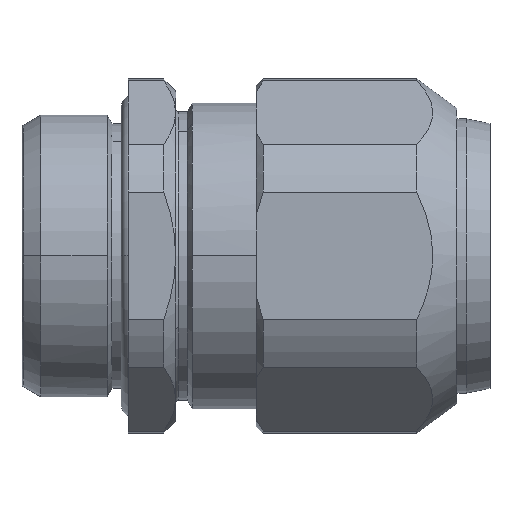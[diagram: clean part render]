
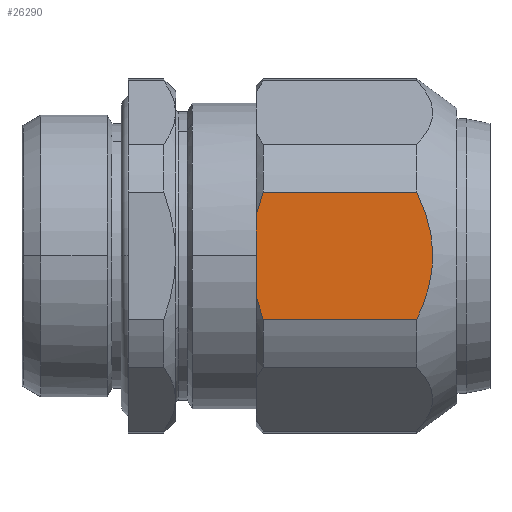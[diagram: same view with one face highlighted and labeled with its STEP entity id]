
A CAD part, top view. The second image highlights one B-rep face of the part: STEP entity #26290.
In plain terms, the highlighted planar face has unit normal (0, 0, 1) as drawn and (0, 1, 0) by its records, which use the part's own axes.
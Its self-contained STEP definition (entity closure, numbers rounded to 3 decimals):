
#2610=CARTESIAN_POINT('',(5.7,0.,
0.));
#2620=DIRECTION('',(1.,0.,0.));
#2630=DIRECTION('',(0.,0.,-1.));
#2640=AXIS2_PLACEMENT_3D('',#2610,#2620,#2630);
#2650=CONICAL_SURFACE('',#2640,7.5,0.785);
#21340=CARTESIAN_POINT('',(12.2,0.,
0.));
#21350=DIRECTION('',(-1.,0.,0.));
#21360=DIRECTION('',(0.,0.,1.));
#21370=AXIS2_PLACEMENT_3D('',#21340,#21350,#21360);
#21380=CONICAL_SURFACE('',#21370,7.5,0.634);
#21740=CARTESIAN_POINT('',(12.2,7.,2.693));
#21750=VERTEX_POINT('656201-1634192109-14cb19c6d37b-0 995597',#21740);
#21780=CARTESIAN_POINT('',(13.9,7.,-4.041));
#21790=DIRECTION('',(0.,1.,0.));
#21800=DIRECTION('',(0.,0.,-1.));
#21810=AXIS2_PLACEMENT_3D('',#21780,#21790,#21800);
#21820=PLANE('',#21810);
#21830=CARTESIAN_POINT('',(12.2,7.,-2.693));
#21840=CARTESIAN_POINT('',(12.405,7.,
-2.273));
#21850=CARTESIAN_POINT('',(12.575,7.,
-1.839));
#21860=CARTESIAN_POINT('',(12.694,7.,
-1.389));
#21870=CARTESIAN_POINT('',(12.754,7.,
-1.163));
#21880=CARTESIAN_POINT('',(12.801,7.,
-0.933));
#21890=CARTESIAN_POINT('',(12.832,7.,
-0.701));
#21900=CARTESIAN_POINT('',(12.864,7.,
-0.468));
#21910=CARTESIAN_POINT('',(12.88,7.,-0.234));
#21920=CARTESIAN_POINT('',(12.88,7.,0.));
#21930=CARTESIAN_POINT('',(12.88,7.,0.234));
#21940=CARTESIAN_POINT('',(12.864,7.,
0.466));
#21950=CARTESIAN_POINT('',(12.833,7.,
0.697));
#21960=CARTESIAN_POINT('',(12.802,7.,
0.927));
#21970=CARTESIAN_POINT('',(12.756,7.,
1.156));
#21980=CARTESIAN_POINT('',(12.696,7.,
1.383));
#21990=CARTESIAN_POINT('',(12.636,7.,
1.609));
#22000=CARTESIAN_POINT('',(12.564,7.,
1.832));
#22010=CARTESIAN_POINT('',(12.48,7.,
2.051));
#22020=CARTESIAN_POINT('',(12.396,7.,
2.27));
#22030=CARTESIAN_POINT('',(12.302,7.,
2.484));
#22040=CARTESIAN_POINT('',(12.2,7.,
2.693));
#22050=B_SPLINE_CURVE_WITH_KNOTS('',3,(#21830,#21840,#21850,#21860,
#21870,#21880,#21890,#21900,#21910,#21920,#21930,#21940,#21950,#21960,
#21970,#21980,#21990,#22000,#22010,#22020,#22030,#22040),.UNSPECIFIED.,
.F.,.F.,(4,3,3,3,3,3,3,4),(0.,1.397,2.099,
2.802,3.5,4.2,4.903,
5.603),.UNSPECIFIED.);
#22060=SURFACE_CURVE('',#22050,(#21380,#21820),.CURVE_3D.);
#22070=CARTESIAN_POINT('',(12.2,7.,-2.693));
#22080=VERTEX_POINT('656201-1634192109-14cb19c6d37b-0 995578',#22070);
#22090=EDGE_CURVE('656201-1634192109-14cb19c6d37b-0 995598',#22080,
#21750,#22060,.T.);
#25660=CARTESIAN_POINT('',(5.7,7.,2.693));
#25670=CARTESIAN_POINT('',(5.67,7.,2.61));
#25680=CARTESIAN_POINT('',(5.642,7.,
2.527));
#25690=CARTESIAN_POINT('',(5.614,7.,
2.444));
#25700=CARTESIAN_POINT('',(5.587,7.,
2.36));
#25710=CARTESIAN_POINT('',(5.56,7.,2.277));
#25720=CARTESIAN_POINT('',(5.535,7.,2.193));
#25730=CARTESIAN_POINT('',(5.51,7.,2.109));
#25740=CARTESIAN_POINT('',(5.486,7.,2.024));
#25750=CARTESIAN_POINT('',(5.464,7.,1.94));
#25760=CARTESIAN_POINT('',(5.441,7.,1.855));
#25770=CARTESIAN_POINT('',(5.42,7.,1.77));
#25780=CARTESIAN_POINT('',(5.4,7.,1.685));
#25790=B_SPLINE_CURVE_WITH_KNOTS('',3,(#25660,#25670,#25680,#25690,
#25700,#25710,#25720,#25730,#25740,#25750,#25760,#25770,#25780),
.UNSPECIFIED.,.F.,.F.,(4,3,3,3,4),(0.,0.263,
0.526,0.789,1.052),.UNSPECIFIED.);
#25800=SURFACE_CURVE('',#25790,(#2650,#21820),.CURVE_3D.);
#25810=CARTESIAN_POINT('',(5.7,7.,2.693));
#25820=VERTEX_POINT('656201-1634192109-14cb19c6d37b-0 995594',#25810);
#25830=CARTESIAN_POINT('',(5.4,7.,1.685));
#25840=VERTEX_POINT('656201-1634192109-14cb19c6d37b-0 995592',#25830);
#25850=EDGE_CURVE('656201-1634192109-14cb19c6d37b-0 995593',#25820,
#25840,#25800,.T.);
#25860=ORIENTED_EDGE('',*,*,#25850,.F.);
#25870=CARTESIAN_POINT('',(5.4,7.,0.));
#25880=DIRECTION('',(0.,0.,-1.));
#25890=VECTOR('',#25880,1.);
#25900=LINE('',#25870,#25890);
#25910=CARTESIAN_POINT('',(5.4,7.,-1.685));
#25920=VERTEX_POINT('656201-1634192109-14cb19c6d37b-0 995589',#25910);
#25930=EDGE_CURVE('656201-1634192109-14cb19c6d37b-0 995590',#25840,
#25920,#25900,.T.);
#25940=ORIENTED_EDGE('',*,*,#25930,.F.);
#25950=CARTESIAN_POINT('',(5.4,7.,-1.685));
#25960=CARTESIAN_POINT('',(5.42,7.,-1.77));
#25970=CARTESIAN_POINT('',(5.441,7.,-1.855));
#25980=CARTESIAN_POINT('',(5.464,7.,-1.94));
#25990=CARTESIAN_POINT('',(5.486,7.,-2.025));
#26000=CARTESIAN_POINT('',(5.51,7.,-2.109));
#26010=CARTESIAN_POINT('',(5.535,7.,-2.193));
#26020=CARTESIAN_POINT('',(5.561,7.,-2.277));
#26030=CARTESIAN_POINT('',(5.587,7.,-2.36));
#26040=CARTESIAN_POINT('',(5.614,7.,-2.444));
#26050=CARTESIAN_POINT('',(5.642,7.,-2.527));
#26060=CARTESIAN_POINT('',(5.67,7.,-2.61));
#26070=CARTESIAN_POINT('',(5.7,7.,-2.693));
#26080=B_SPLINE_CURVE_WITH_KNOTS('',3,(#25950,#25960,#25970,#25980,
#25990,#26000,#26010,#26020,#26030,#26040,#26050,#26060,#26070),
.UNSPECIFIED.,.F.,.F.,(4,3,3,3,4),(0.,0.263,
0.525,0.788,1.052),.UNSPECIFIED.);
#26090=SURFACE_CURVE('',#26080,(#2650,#21820),.CURVE_3D.);
#26100=CARTESIAN_POINT('',(5.7,7.,-2.693));
#26110=VERTEX_POINT('656201-1634192109-14cb19c6d37b-0 995581',#26100);
#26120=EDGE_CURVE('656201-1634192109-14cb19c6d37b-0 995582',#25920,
#26110,#26090,.T.);
#26130=ORIENTED_EDGE('',*,*,#26120,.F.);
#26140=CARTESIAN_POINT('',(8.95,7.,-2.693));
#26150=DIRECTION('',(-1.,0.,0.));
#26160=VECTOR('',#26150,1.);
#26170=LINE('',#26140,#26160);
#26180=EDGE_CURVE('656201-1634192109-14cb19c6d37b-0 995579',#22080,
#26110,#26170,.T.);
#26190=ORIENTED_EDGE('',*,*,#26180,.T.);
#26200=ORIENTED_EDGE('',*,*,#22090,.F.);
#26210=CARTESIAN_POINT('',(8.95,7.,2.693));
#26220=DIRECTION('',(-1.,0.,0.));
#26230=VECTOR('',#26220,1.);
#26240=LINE('',#26210,#26230);
#26250=EDGE_CURVE('656201-1634192109-14cb19c6d37b-0 995595',#21750,
#25820,#26240,.T.);
#26260=ORIENTED_EDGE('',*,*,#26250,.F.);
#26270=EDGE_LOOP('',(#26260,#26200,#26190,#26130,#25940,#25860));
#26280=FACE_OUTER_BOUND('',#26270,.T.);
#26290=ADVANCED_FACE('656201-1634192109-14cb19c6d37b-0 995941',(#26280),
#21820,.T.);
